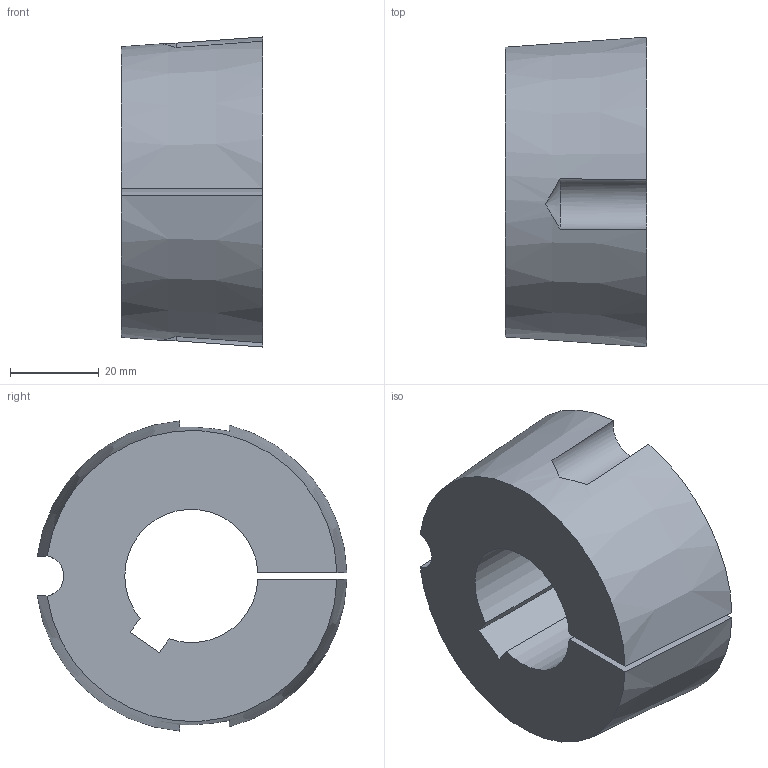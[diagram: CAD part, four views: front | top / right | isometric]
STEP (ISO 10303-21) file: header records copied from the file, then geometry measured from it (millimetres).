
FILE_DESCRIPTION( ( 'STEP AP203' ), '1' );
FILE_NAME( 'D:/export/antriebselemente/spannbuchsen_und_spannsaetze/taper-spannbuchsen_1008_bis_5050/taper-spannbuchsen_62250530Isometric_122.stp', '2018-12-11T11:11:13', ( '' ), ( '' ), ' ', 'PARTsolutions', ' ' );
FILE_SCHEMA( ( 'CONFIG_CONTROL_DESIGN' ) );
Length unit declared in the file: millimetre
Products named in the file (1): _taper-spannbuchsen_62250530
Bounding box: 31.8 x 69.72 x 69.81 mm (x, y, z)
Volume: 86911.6 mm3; surface area: 17166.3 mm2
Topology: 1 solids, 1 shells, 16 faces, 42 edges, 28 vertices
Faces by surface type: plane 7, cylinder 5, cone 4
Entity records: 618 total; most frequent: CARTESIAN_POINT 179, ORIENTED_EDGE 84, DIRECTION 82, EDGE_CURVE 42, AXIS2_PLACEMENT_3D 33, VERTEX_POINT 28, ADVANCED_FACE 16, FACE_OUTER_BOUND 16
